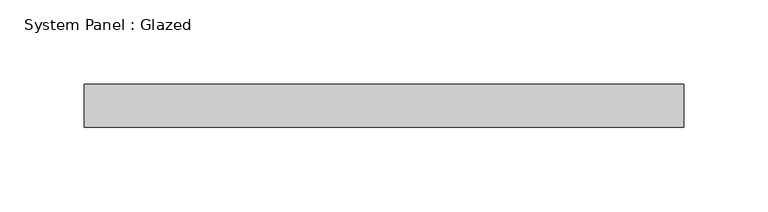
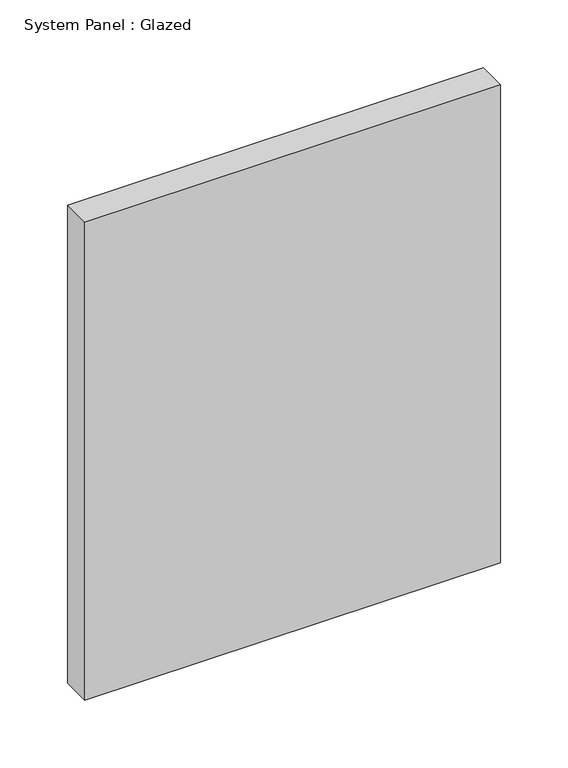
"""IFC4 building model written with IfcOpenShell, lengths in millimetres: plate geometry, System Panel : Glazed."""

from ifc_helpers import new_model, si_unit, origin, origin_with_axes, place, context, project, spatial, polyline, outline, extrude, source, transform, mapped, element, save


def system_panel_glazed_44deb75c(model_context):
    return source(origin(), model_context, "Body", "SweptSolid", [
        extrude(outline(polyline([(177.8000002, 19.05), (-177.8000002, 19.05), (-177.8000002, 44.45), (177.8000002, 44.45), (177.8000002, 19.05)])), origin_with_axes(), (0.0, 0.0, 1.0), 431.8),
    ])


if __name__ == "__main__":
    model = new_model("IFC4")
    model_context = context("Model", 3, world=origin())
    ifc_project = project(units=[si_unit("LENGTHUNIT", "METRE", prefix="MILLI")], contexts=[model_context])
    site = spatial("IfcSite", under=ifc_project)
    building = spatial("IfcBuilding", under=site)
    placement = place(None, origin())
    system_panel_glazed_shape = system_panel_glazed_44deb75c(model_context)
    element("IfcPlate", 1, ObjectType="System Panel : Glazed", at=placement, inside=building, context=model_context, shape_type="MappedRepresentation", body=[
        mapped(system_panel_glazed_shape, transform((0.0, 0.0, 0.0), x_axis=(1.0, 0.0, 0.0), y_axis=(0.0, 1.0, 0.0), z_axis=(0.0, 0.0, 1.0))),
    ])
    save(model, "model.ifc")
